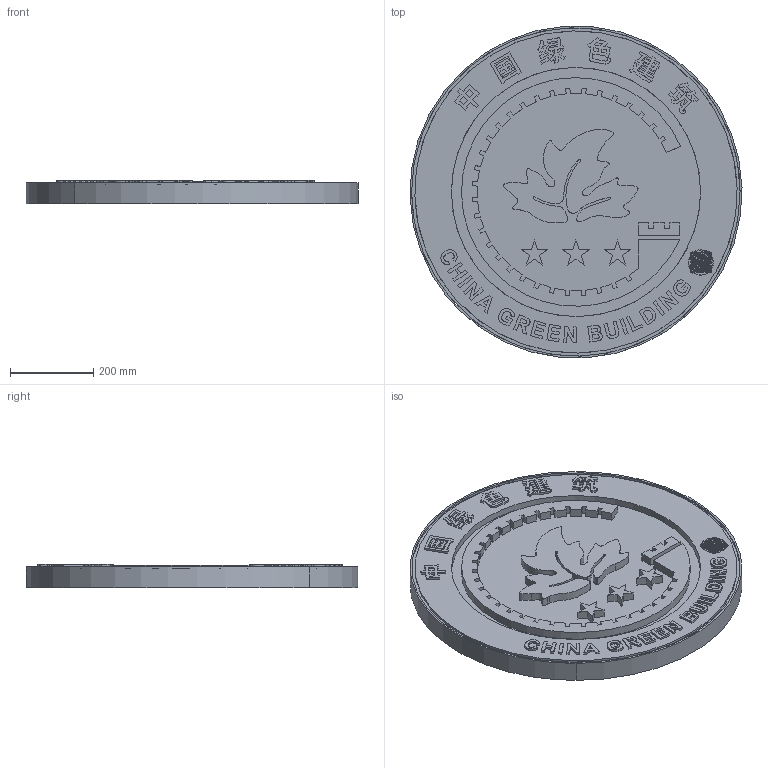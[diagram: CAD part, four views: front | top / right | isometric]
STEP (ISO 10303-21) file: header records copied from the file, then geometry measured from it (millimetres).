
FILE_DESCRIPTION(/* description */ (''),/* implementation_level */ '2;1');
FILE_NAME(/* name */ '201628~1',/* time_stamp */ '2021-05-11T18:10:48+08:00',/* author */ (''),/* organization */ (''),/* preprocessor_version */ 'ST-DEVELOPER v15',/* originating_system */ '',/* authorisation */ '');
FILE_SCHEMA (('AUTOMOTIVE_DESIGN'));
Length unit declared in the file: millimetre
Products named in the file (1): Document
Bounding box: 799.67 x 798.21 x 55.42 mm (x, y, z)
Volume: 22219435.4 mm3; surface area: 2158007.5 mm2
Topology: 293 solids, 293 shells, 2278 faces, 5084 edges, 3392 vertices
Faces by surface type: bspline 1463, plane 815
Entity records: 81341 total; most frequent: CARTESIAN_POINT 45904, ORIENTED_EDGE 10152, B_SPLINE_CURVE_WITH_KNOTS 5084, EDGE_CURVE 5076, VERTEX_POINT 3384, EDGE_LOOP 2320, ADVANCED_FACE 2278, FACE_OUTER_BOUND 2278
